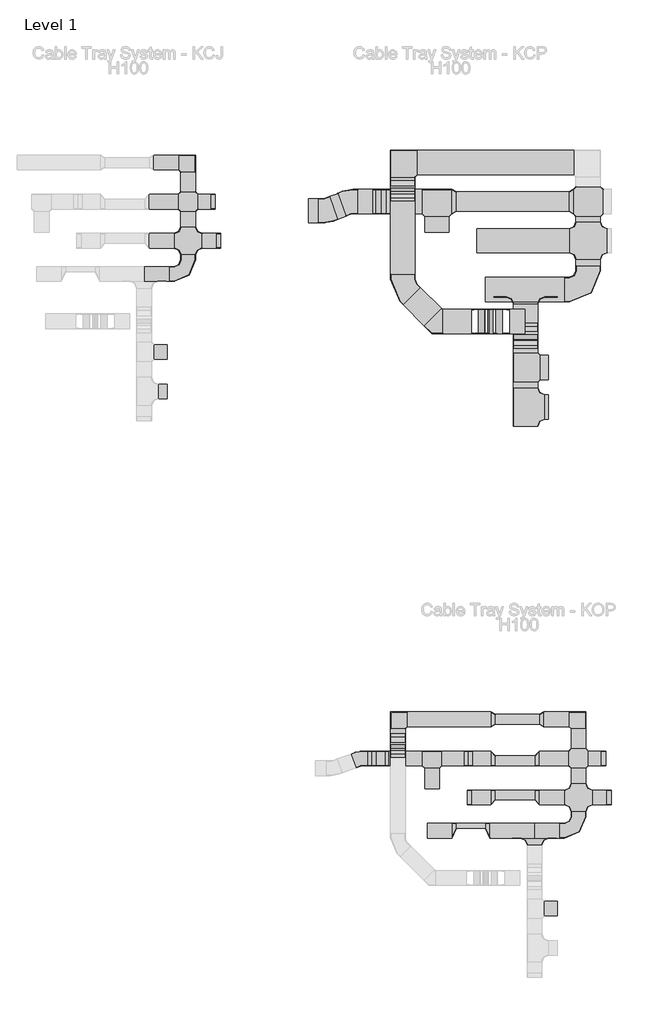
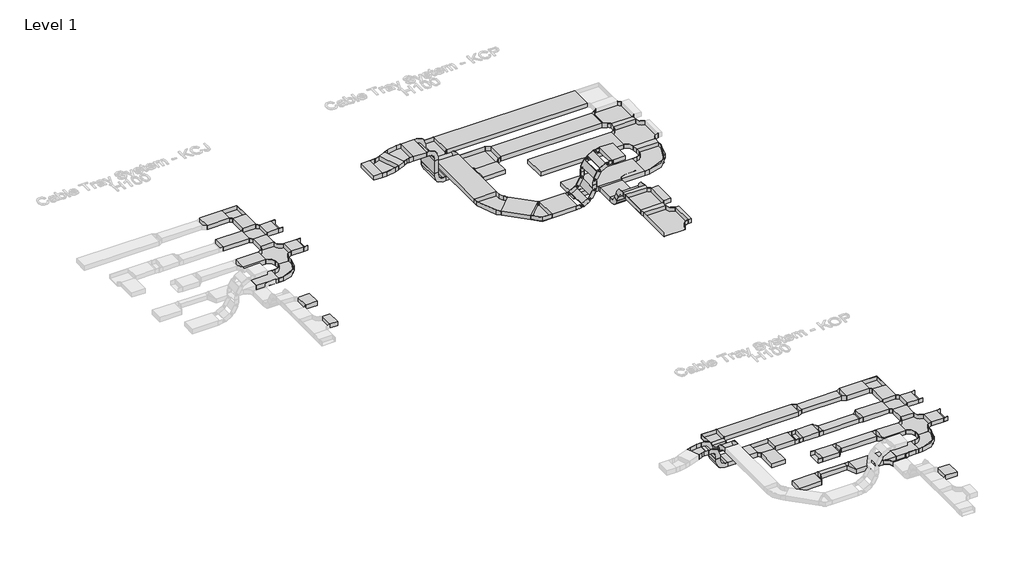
# One storey, part 19 of 106: 63 cable carrier fittings, 56 cable carrier segments.
"""IFC4 building model written with IfcOpenShell, lengths in millimetres."""

from ifc_helpers import new_model, si_unit, frame, origin, place, context, project, spatial, polyline, outline, extrude, transform, mapped, element, save
from components import cable_carrier_fitting_d4f283aa, cable_carrier_fitting_42195290, cable_carrier_fitting_5f227b89, cable_carrier_fitting_7ef83dec, cable_carrier_fitting_24d58ad9, cable_carrier_fitting_3a6d649d, cable_carrier_fitting_2d5aa353, cable_carrier_fitting_83230dc4, cable_carrier_fitting_3cbe9e62, cable_carrier_fitting_c86838e9, cable_carrier_fitting_1be5f7b4, cable_carrier_fitting_c163f1ca, cable_carrier_fitting_32826c86, cable_carrier_fitting_b014db50, cable_carrier_fitting_e69bf5bc, cable_carrier_fitting_b7b75895, cable_carrier_fitting_0afdfe74, cable_carrier_fitting_8809d5a3, cable_carrier_fitting_4562ccd4, cable_carrier_fitting_385655bb, cable_carrier_fitting_dcc5a5fb, cable_carrier_fitting_57a60f3e, cable_carrier_fitting_a6edbbf3, cable_carrier_fitting_a0d47c04, cable_carrier_fitting_38514b7d, cable_carrier_fitting_a285f0eb, cable_carrier_fitting_ec34a846, cable_carrier_fitting_2246cbb3, cable_carrier_fitting_a7a9146a, cable_carrier_fitting_ade76aff, cable_carrier_fitting_81c76d70, cable_carrier_fitting_ebb341f6, cable_carrier_fitting_3ce5f4b2, cable_carrier_fitting_6f560506, cable_carrier_fitting_32456c58, cable_carrier_fitting_ffd069c1, cable_carrier_fitting_3d71c57e, cable_carrier_fitting_2a96a9fd, cable_carrier_fitting_31e9e336, cable_carrier_fitting_8722d5a2, cable_carrier_fitting_a7df6f7b, cable_carrier_fitting_eff098e2

model = new_model("IFC4")

# Units and contexts
model_context = context("Model", 3, world=origin())
ifc_project = project(units=[si_unit("LENGTHUNIT", "METRE", prefix="MILLI")], contexts=[model_context])

# Site, building, storey
site = spatial("IfcSite", under=ifc_project)
building = spatial("IfcBuilding", under=site)
storey = spatial("IfcBuildingStorey", under=building, Name="Level 1", Elevation=0.0)

# Cable carrier fittings
placement = place(None, origin())
cable_carrier_fitting_shape = cable_carrier_fitting_d4f283aa(model_context)
element("IfcCableCarrierFitting", 1, ObjectType="BAKS_Reducer : RK(S/L/P)J_H100", at=placement, inside=storey, context=model_context, shape_type="MappedRepresentation", body=[
    mapped(cable_carrier_fitting_shape, transform((161211.8329462, 22980.8714214, 0.0), x_axis=(-1.0, 0.0, 0.0), y_axis=(0.0, -1.0, 0.0), z_axis=(0.0, 0.0, 1.0))),
])
element("IfcCableCarrierFitting", 2, ObjectType="BAKS_Reducer : RK(S/L/P)J_H100", at=placement, inside=storey, context=model_context, shape_type="MappedRepresentation", body=[
    mapped(cable_carrier_fitting_shape, transform((161325.8329462, 22180.8714214, 0.0), x_axis=(-1.0, 0.0, 0.0), y_axis=(0.0, -1.0, 0.0), z_axis=(0.0, 0.0, 1.0))),
])
cable_carrier_fitting_2_shape = cable_carrier_fitting_42195290(model_context)
element("IfcCableCarrierFitting", 3, ObjectType="BAKS_Horizontal bend : KKJ/KKMJ_H100", at=placement, inside=storey, context=model_context, shape_type="MappedRepresentation", body=[
    mapped(cable_carrier_fitting_2_shape, transform((160656.8329462, 23780.8714214, 0.0), x_axis=(0.0, 1.0, 0.0), y_axis=(-1.0, 0.0, 0.0), z_axis=(0.0, 0.0, 1.0))),
])
cable_carrier_fitting_3_shape = cable_carrier_fitting_5f227b89(model_context)
element("IfcCableCarrierFitting", 4, ObjectType="BAKS_Horizontal cross over : CZKJ_H100", at=placement, inside=storey, context=model_context, shape_type="MappedRepresentation", body=[
    mapped(cable_carrier_fitting_3_shape, transform((160656.8329462, 22980.8714214, 0.0), x_axis=(0.0, -1.0, 0.0), y_axis=(1.0, 0.0, 0.0), z_axis=(0.0, 0.0, 1.0))),
])
cable_carrier_fitting_4_shape = cable_carrier_fitting_7ef83dec(model_context)
element("IfcCableCarrierFitting", 5, ObjectType="BAKS_Horizontal cross over radius : CZKPJ_H100", at=placement, inside=storey, context=model_context, shape_type="MappedRepresentation", body=[
    mapped(cable_carrier_fitting_4_shape, transform((160656.8329462, 22180.8714214, 0.0), x_axis=(0.0, -1.0, 0.0), y_axis=(1.0, 0.0, 0.0), z_axis=(0.0, 0.0, 1.0))),
])
cable_carrier_fitting_5_shape = cable_carrier_fitting_24d58ad9(model_context)
element("IfcCableCarrierFitting", 6, ObjectType="BAKS_Horizontal bend radius : KKPJ/KKMPJ_H100", at=placement, inside=storey, context=model_context, shape_type="MappedRepresentation", body=[
    mapped(cable_carrier_fitting_5_shape, transform((160656.8329462, 21499.8714214, 0.0), x_axis=(1.0, 0.0, 0.0), y_axis=(0.0, 1.0, 0.0), z_axis=(0.0, 0.0, 1.0))),
])
element("IfcCableCarrierFitting", 7, ObjectType="BAKS_Horizontal bend radius : KKPJ/KKMPJ_H100", at=placement, inside=storey, context=model_context, shape_type="MappedRepresentation", body=[
    mapped(cable_carrier_fitting_5_shape, transform((168656.8329462, 10099.8714214, 0.0), x_axis=(1.0, 0.0, 0.0), y_axis=(0.0, 1.0, 0.0), z_axis=(0.0, 0.0, 1.0))),
])
cable_carrier_fitting_6_shape = cable_carrier_fitting_3a6d649d(model_context)
element("IfcCableCarrierFitting", 8, ObjectType="BAKS_Horizontal bend radius : KKPJ/KKMPJ_H100", at=placement, inside=storey, context=model_context, shape_type="MappedRepresentation", body=[
    mapped(cable_carrier_fitting_6_shape, transform((164186.1981218, 11580.8714214, 438.0), x_axis=(-1.0, 0.0, 0.0), y_axis=(0.0, -1.0, 0.0), z_axis=(0.0, 0.0, 1.0))),
])
cable_carrier_fitting_7_shape = cable_carrier_fitting_2d5aa353(model_context)
element("IfcCableCarrierFitting", 9, ObjectType="BAKS_BEND_Articulated connector_LGP : LGP_H100", at=placement, inside=storey, context=model_context, shape_type="MappedRepresentation", body=[
    mapped(cable_carrier_fitting_7_shape, transform((166557.3065873, 20281.3714214, 235.0), x_axis=(1.0, 0.0, 0.0), y_axis=(0.0, 0.0, 1.0), z_axis=(0.0, -1.0, 0.0))),
])
element("IfcCableCarrierFitting", 10, ObjectType="BAKS_BEND_Articulated connector_LGP : LGP_H100", at=placement, inside=storey, context=model_context, shape_type="MappedRepresentation", body=[
    mapped(cable_carrier_fitting_7_shape, transform((166853.7340999, 20781.3714214, 760.9736411), x_axis=(0.0, 0.0, 1.0), y_axis=(1.0, 0.0, 0.0), z_axis=(0.0, 1.0, 0.0))),
])
cable_carrier_fitting_8_shape = cable_carrier_fitting_83230dc4(model_context)
element("IfcCableCarrierFitting", 11, ObjectType="BAKS_BEND_Articulated connector_LGP : LGP_H100", at=placement, inside=storey, context=model_context, shape_type="MappedRepresentation", body=[
    mapped(cable_carrier_fitting_8_shape, transform((166853.7340999, 20281.3714214, 531.4275126), x_axis=(0.4999999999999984, 0.0, 0.8660254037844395), y_axis=(-0.8660254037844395, 0.0, 0.4999999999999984), z_axis=(0.0, -1.0, 0.0))),
])
element("IfcCableCarrierFitting", 12, ObjectType="BAKS_BEND_Articulated connector_LGP : LGP_H100", at=placement, inside=storey, context=model_context, shape_type="MappedRepresentation", body=[
    mapped(cable_carrier_fitting_8_shape, transform((167150.1616126, 20781.3714214, 1057.4011537), x_axis=(0.8660254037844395, 0.0, 0.4999999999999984), y_axis=(0.4999999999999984, 0.0, -0.8660254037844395), z_axis=(0.0, 1.0, 0.0))),
])
cable_carrier_fitting_9_shape = cable_carrier_fitting_3cbe9e62(model_context)
element("IfcCableCarrierFitting", 13, ObjectType="BAKS_BEND_Articulated connector_LGP : LGP_H100", at=placement, inside=storey, context=model_context, shape_type="MappedRepresentation", body=[
    mapped(cable_carrier_fitting_9_shape, transform((166853.7340999, 20781.3714214, 531.4275126), x_axis=(0.4999999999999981, 0.0, 0.8660254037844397), y_axis=(0.8660254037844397, 0.0, -0.4999999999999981), z_axis=(0.0, 1.0, 0.0))),
])
element("IfcCableCarrierFitting", 14, ObjectType="BAKS_BEND_Articulated connector_LGP : LGP_H100", at=placement, inside=storey, context=model_context, shape_type="MappedRepresentation", body=[
    mapped(cable_carrier_fitting_9_shape, transform((167150.1616126, 20281.3714214, 1057.4011537), x_axis=(0.8660254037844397, 0.0, 0.4999999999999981), y_axis=(-0.4999999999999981, 0.0, 0.8660254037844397), z_axis=(0.0, -1.0, 0.0))),
])
cable_carrier_fitting_10_shape = cable_carrier_fitting_c86838e9(model_context)
element("IfcCableCarrierFitting", 15, ObjectType="BAKS_BEND_Articulated connector_LGP : LGP_H100", at=placement, inside=storey, context=model_context, shape_type="MappedRepresentation", body=[
    mapped(cable_carrier_fitting_10_shape, transform((166557.3065873, 20781.3714214, 235.0), x_axis=(1.0, 0.0, 0.0), y_axis=(0.0, 0.0, -1.0), z_axis=(0.0, 1.0, 0.0))),
])
element("IfcCableCarrierFitting", 16, ObjectType="BAKS_BEND_Articulated connector_LGP : LGP_H100", at=placement, inside=storey, context=model_context, shape_type="MappedRepresentation", body=[
    mapped(cable_carrier_fitting_10_shape, transform((166853.7340999, 20281.3714214, 760.9736411), x_axis=(0.0, 0.0, 1.0), y_axis=(-1.0, 0.0, 0.0), z_axis=(0.0, -1.0, 0.0))),
])
cable_carrier_fitting_11_shape = cable_carrier_fitting_1be5f7b4(model_context)
element("IfcCableCarrierFitting", 17, ObjectType="BAKS_Reducer : RK(S/L/P)P_H100", at=placement, inside=storey, context=model_context, shape_type="MappedRepresentation", body=[
    mapped(cable_carrier_fitting_11_shape, transform((167856.8329462, 12380.8714214, 0.0), x_axis=(1.0, 0.0, 0.0), y_axis=(0.0, 1.0, 0.0), z_axis=(0.0, 0.0, 1.0))),
])
cable_carrier_fitting_12_shape = cable_carrier_fitting_c163f1ca(model_context)
element("IfcCableCarrierFitting", 18, ObjectType="BAKS_Reducer : RK(S/L/P)P_H100", at=placement, inside=storey, context=model_context, shape_type="MappedRepresentation", body=[
    mapped(cable_carrier_fitting_12_shape, transform((167761.8329462, 11530.8714214, 0.0), x_axis=(1.0, 0.0, 0.0), y_axis=(0.0, 1.0, 0.0), z_axis=(0.0, 0.0, 1.0))),
])
element("IfcCableCarrierFitting", 19, ObjectType="BAKS_Reducer : RK(S/L/P)P_H100", at=placement, inside=storey, context=model_context, shape_type="MappedRepresentation", body=[
    mapped(cable_carrier_fitting_12_shape, transform((166951.8329462, 10830.8714214, 0.0), x_axis=(-1.0, 0.0, 0.0), y_axis=(0.0, -1.0, 0.0), z_axis=(0.0, 0.0, 1.0))),
])
cable_carrier_fitting_13_shape = cable_carrier_fitting_32826c86(model_context)
element("IfcCableCarrierFitting", 20, ObjectType="BAKS_Reducer : RK(S/L/P)P_H100", at=placement, inside=storey, context=model_context, shape_type="MappedRepresentation", body=[
    mapped(cable_carrier_fitting_13_shape, transform((166951.8329462, 11530.8714214, 0.0), x_axis=(-1.0, 0.0, 0.0), y_axis=(0.0, -1.0, 0.0), z_axis=(0.0, 0.0, 1.0))),
])
element("IfcCableCarrierFitting", 21, ObjectType="BAKS_Reducer : RK(S/L/P)P_H100", at=placement, inside=storey, context=model_context, shape_type="MappedRepresentation", body=[
    mapped(cable_carrier_fitting_13_shape, transform((167761.8329462, 10830.8714214, 0.0), x_axis=(1.0, 0.0, 0.0), y_axis=(0.0, 1.0, 0.0), z_axis=(0.0, 0.0, 1.0))),
])
element("IfcCableCarrierFitting", 22, ObjectType="BAKS_Reducer : RK(S/L/P)P_H100", at=placement, inside=storey, context=model_context, shape_type="MappedRepresentation", body=[
    mapped(cable_carrier_fitting_shape, transform((166399.3329462, 11580.8714214, 0.0), x_axis=(1.0, 0.0, 0.0), y_axis=(0.0, 1.0, 0.0), z_axis=(0.0, 0.0, 1.0))),
])
element("IfcCableCarrierFitting", 23, ObjectType="BAKS_Reducer : RK(S/L/P)P_H100", at=placement, inside=storey, context=model_context, shape_type="MappedRepresentation", body=[
    mapped(cable_carrier_fitting_shape, transform((166399.3329462, 11580.8714214, 0.0), x_axis=(-1.0, 0.0, 0.0), y_axis=(0.0, -1.0, 0.0), z_axis=(0.0, 0.0, 1.0))),
])
element("IfcCableCarrierFitting", 24, ObjectType="BAKS_Reducer : RK(S/L/P)P_H100", at=placement, inside=storey, context=model_context, shape_type="MappedRepresentation", body=[
    mapped(cable_carrier_fitting_shape, transform((166377.8329462, 10780.8714214, 0.0), x_axis=(1.0, 0.0, 0.0), y_axis=(0.0, 1.0, 0.0), z_axis=(0.0, 0.0, 1.0))),
])
element("IfcCableCarrierFitting", 25, ObjectType="BAKS_Reducer : RK(S/L/P)P_H100", at=placement, inside=storey, context=model_context, shape_type="MappedRepresentation", body=[
    mapped(cable_carrier_fitting_shape, transform((169211.8329462, 11580.8714214, 0.0), x_axis=(-1.0, 0.0, 0.0), y_axis=(0.0, -1.0, 0.0), z_axis=(0.0, 0.0, 1.0))),
])
element("IfcCableCarrierFitting", 26, ObjectType="BAKS_Reducer : RK(S/L/P)P_H100", at=placement, inside=storey, context=model_context, shape_type="MappedRepresentation", body=[
    mapped(cable_carrier_fitting_shape, transform((169325.8329462, 10780.8714214, 0.0), x_axis=(-1.0, 0.0, 0.0), y_axis=(0.0, -1.0, 0.0), z_axis=(0.0, 0.0, 1.0))),
])
cable_carrier_fitting_14_shape = cable_carrier_fitting_b014db50(model_context)
element("IfcCableCarrierFitting", 27, ObjectType="BAKS_Reducer : RK(S/L/P)P_H100", at=placement, inside=storey, context=model_context, shape_type="MappedRepresentation", body=[
    mapped(cable_carrier_fitting_14_shape, transform((166856.8329462, 12380.8714214, 0.0), x_axis=(1.0, 0.0, 0.0), y_axis=(0.0, 1.0, 0.0), z_axis=(0.0, 0.0, 1.0))),
])
cable_carrier_fitting_15_shape = cable_carrier_fitting_e69bf5bc(model_context)
element("IfcCableCarrierFitting", 28, ObjectType="BAKS_Reducer : RK(S/L/P)P_H100", at=placement, inside=storey, context=model_context, shape_type="MappedRepresentation", body=[
    mapped(cable_carrier_fitting_15_shape, transform((166750.8329462, 10199.8714214, 0.0), x_axis=(1.0, 0.0, 0.0), y_axis=(0.0, 1.0, 0.0), z_axis=(0.0, 0.0, 1.0))),
])
cable_carrier_fitting_16_shape = cable_carrier_fitting_b7b75895(model_context)
element("IfcCableCarrierFitting", 29, ObjectType="BAKS_Reducer : RK(S/L/P)P_H100", at=placement, inside=storey, context=model_context, shape_type="MappedRepresentation", body=[
    mapped(cable_carrier_fitting_16_shape, transform((166152.8329462, 10199.8714214, 0.0), x_axis=(-1.0, 0.0, 0.0), y_axis=(0.0, -1.0, 0.0), z_axis=(0.0, 0.0, 1.0))),
])
cable_carrier_fitting_17_shape = cable_carrier_fitting_0afdfe74(model_context)
element("IfcCableCarrierFitting", 30, ObjectType="BAKS_Horizontal tee : TKP_H100", at=placement, inside=storey, context=model_context, shape_type="MappedRepresentation", body=[
    mapped(cable_carrier_fitting_17_shape, transform((165656.3329462, 11580.8714214, 0.0), x_axis=(1.0, 0.0, 0.0), y_axis=(0.0, 1.0, 0.0), z_axis=(0.0, 0.0, 1.0))),
])
element("IfcCableCarrierFitting", 31, ObjectType="BAKS_Horizontal bend : KKP/KKMP_H100", at=placement, inside=storey, context=model_context, shape_type="MappedRepresentation", body=[
    mapped(cable_carrier_fitting_2_shape, transform((168656.8329462, 12380.8714214, 0.0), x_axis=(0.0, 1.0, 0.0), y_axis=(-1.0, 0.0, 0.0), z_axis=(0.0, 0.0, 1.0))),
])
element("IfcCableCarrierFitting", 32, ObjectType="BAKS_Horizontal bend : KKP/KKMP_H100", at=placement, inside=storey, context=model_context, shape_type="MappedRepresentation", body=[
    mapped(cable_carrier_fitting_2_shape, transform((164956.8329462, 12380.8714214, 0.0), x_axis=(-1.0, 0.0, 0.0), y_axis=(0.0, -1.0, 0.0), z_axis=(0.0, 0.0, 1.0))),
])
cable_carrier_fitting_18_shape = cable_carrier_fitting_8809d5a3(model_context)
element("IfcCableCarrierFitting", 33, ObjectType="BAKS_Horizontal tee : TKJ_H100", at=placement, inside=storey, context=model_context, shape_type="MappedRepresentation", body=[
    mapped(cable_carrier_fitting_18_shape, transform((165756.3329462, 22980.8714214, 0.0), x_axis=(1.0, 0.0, 0.0), y_axis=(0.0, 1.0, 0.0), z_axis=(0.0, 0.0, 1.0))),
])
element("IfcCableCarrierFitting", 34, ObjectType="BAKS_Horizontal tee : TKJ_H100", at=placement, inside=storey, context=model_context, shape_type="MappedRepresentation", body=[
    mapped(cable_carrier_fitting_18_shape, transform((167573.8329462, 19583.8631068, 432.5277378), x_axis=(0.0, 1.0, 0.0), y_axis=(-1.0, 0.0, 0.0), z_axis=(0.0, 0.0, 1.0))),
])
cable_carrier_fitting_19_shape = cable_carrier_fitting_4562ccd4(model_context)
element("IfcCableCarrierFitting", 35, ObjectType="BAKS_Horizontal addon tee : TKDJ_H100", at=placement, inside=storey, context=model_context, shape_type="MappedRepresentation", body=[
    mapped(cable_carrier_fitting_19_shape, transform((167573.8329462, 21179.8714214, 0.0), x_axis=(1.0, 0.0, 0.0), y_axis=(0.0, 1.0, 0.0), z_axis=(0.0, 0.0, 1.0))),
])
cable_carrier_fitting_20_shape = cable_carrier_fitting_385655bb(model_context)
element("IfcCableCarrierFitting", 36, ObjectType="BAKS_Horizontal tee radius : TKPJ_H100", at=placement, inside=storey, context=model_context, shape_type="MappedRepresentation", body=[
    mapped(cable_carrier_fitting_20_shape, transform((167573.8329462, 18776.5802898, 432.5277378), x_axis=(0.0, 1.0, 0.0), y_axis=(-1.0, 0.0, 0.0), z_axis=(0.0, 0.0, 1.0))),
])
cable_carrier_fitting_21_shape = cable_carrier_fitting_dcc5a5fb(model_context)
element("IfcCableCarrierFitting", 37, ObjectType="BAKS_Horizontal bend : KKP/KKMP_H100", at=placement, inside=storey, context=model_context, shape_type="MappedRepresentation", body=[
    mapped(cable_carrier_fitting_21_shape, transform((165056.8329462, 23780.8714214, 0.0), x_axis=(-1.0, 0.0, 0.0), y_axis=(0.0, -1.0, 0.0), z_axis=(0.0, 0.0, 1.0))),
])
cable_carrier_fitting_22_shape = cable_carrier_fitting_57a60f3e(model_context)
element("IfcCableCarrierFitting", 38, ObjectType="BAKS_Horizontal bend : KKP/KKMP_H100", at=placement, inside=storey, context=model_context, shape_type="MappedRepresentation", body=[
    mapped(cable_carrier_fitting_22_shape, transform((165756.3329462, 20531.3714214, 235.0), x_axis=(0.707106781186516, -0.707106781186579, 0.0), y_axis=(0.707106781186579, 0.707106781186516, 0.0), z_axis=(0.0, 0.0, 1.0))),
])
cable_carrier_fitting_23_shape = cable_carrier_fitting_a6edbbf3(model_context)
element("IfcCableCarrierFitting", 39, ObjectType="BAKS_Horizontal cross over : CZKP_H100", at=placement, inside=storey, context=model_context, shape_type="MappedRepresentation", body=[
    mapped(cable_carrier_fitting_23_shape, transform((168856.8329462, 22980.8714214, 0.0), x_axis=(0.0, -1.0, 0.0), y_axis=(1.0, 0.0, 0.0), z_axis=(0.0, 0.0, 1.0))),
])
cable_carrier_fitting_24_shape = cable_carrier_fitting_a0d47c04(model_context)
element("IfcCableCarrierFitting", 40, ObjectType="BAKS_Horizontal cross over radius : CZKPP_H100", at=placement, inside=storey, context=model_context, shape_type="MappedRepresentation", body=[
    mapped(cable_carrier_fitting_24_shape, transform((168856.8329462, 22180.8714214, 0.0), x_axis=(0.0, -1.0, 0.0), y_axis=(1.0, 0.0, 0.0), z_axis=(0.0, 0.0, 1.0))),
])
cable_carrier_fitting_25_shape = cable_carrier_fitting_38514b7d(model_context)
element("IfcCableCarrierFitting", 41, ObjectType="BAKS_Reducer : RK(S/L/P)J_H100", at=placement, inside=storey, context=model_context, shape_type="MappedRepresentation", body=[
    mapped(cable_carrier_fitting_25_shape, transform((168551.8329462, 22980.8714214, 0.0), x_axis=(-1.0, 0.0, 0.0), y_axis=(0.0, -1.0, 0.0), z_axis=(0.0, 0.0, 1.0))),
])
cable_carrier_fitting_26_shape = cable_carrier_fitting_a285f0eb(model_context)
element("IfcCableCarrierFitting", 42, ObjectType="BAKS_Reducer : RK(S/L/P)J_H100", at=placement, inside=storey, context=model_context, shape_type="MappedRepresentation", body=[
    mapped(cable_carrier_fitting_26_shape, transform((166156.3329462, 22980.8714214, 0.0), x_axis=(-1.0, 0.0, 0.0), y_axis=(0.0, -1.0, 0.0), z_axis=(0.0, 0.0, 1.0))),
])
cable_carrier_fitting_27_shape = cable_carrier_fitting_ec34a846(model_context)
element("IfcCableCarrierFitting", 43, ObjectType="BAKS_Horizontal bend radius : KKPP/KKMPP_H100", at=placement, inside=storey, context=model_context, shape_type="MappedRepresentation", body=[
    mapped(cable_carrier_fitting_27_shape, transform((163966.1981218, 22980.8714214, 738.0), x_axis=(-1.0, 0.0, 0.0), y_axis=(0.0, -1.0, 0.0), z_axis=(0.0, 0.0, 1.0))),
])
element("IfcCableCarrierFitting", 44, ObjectType="BAKS_Horizontal bend radius : KKPP/KKMPP_H100", at=placement, inside=storey, context=model_context, shape_type="MappedRepresentation", body=[
    mapped(cable_carrier_fitting_27_shape, transform((163487.0862935, 22795.0646081, 738.0), x_axis=(1.0, 0.0, 0.0), y_axis=(0.0, 1.0, 0.0), z_axis=(0.0, 0.0, 1.0))),
])
cable_carrier_fitting_28_shape = cable_carrier_fitting_2246cbb3(model_context)
element("IfcCableCarrierFitting", 45, ObjectType="BAKS_BEND_Adjustable vertical bend element_EL : ELP_H100", at=placement, inside=storey, context=model_context, shape_type="MappedRepresentation", body=[
    mapped(cable_carrier_fitting_28_shape, transform((166733.2340999, 20531.3714214, 322.7153903), x_axis=(0.4999999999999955, 0.0, 0.8660254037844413), y_axis=(0.0, 1.0, 0.0), z_axis=(-0.8660254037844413, 0.0, 0.4999999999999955))),
])
element("IfcCableCarrierFitting", 46, ObjectType="BAKS_BEND_Adjustable vertical bend element_EL : ELP_H100", at=placement, inside=storey, context=model_context, shape_type="MappedRepresentation", body=[
    mapped(cable_carrier_fitting_28_shape, transform((166536.5219776, 20531.3714214, 223.0), x_axis=(0.8660254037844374, 0.0, 0.5000000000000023), y_axis=(0.0, 1.0, 0.0), z_axis=(-0.5000000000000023, 0.0, 0.8660254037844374))),
])
element("IfcCableCarrierFitting", 47, ObjectType="BAKS_BEND_Adjustable vertical bend element_EL : ELP_H100", at=placement, inside=storey, context=model_context, shape_type="MappedRepresentation", body=[
    mapped(cable_carrier_fitting_28_shape, transform((166941.4494902, 20531.3714214, 936.9011537), x_axis=(0.8660254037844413, 0.0, 0.4999999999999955), y_axis=(0.0, -1.0, 0.0), z_axis=(0.4999999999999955, 0.0, -0.8660254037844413))),
])
element("IfcCableCarrierFitting", 48, ObjectType="BAKS_BEND_Adjustable vertical bend element_EL : ELP_H100", at=placement, inside=storey, context=model_context, shape_type="MappedRepresentation", body=[
    mapped(cable_carrier_fitting_28_shape, transform((166841.7340999, 20531.3714214, 740.1890314), x_axis=(0.5000000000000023, 0.0, 0.8660254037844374), y_axis=(0.0, -1.0, 0.0), z_axis=(0.8660254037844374, 0.0, -0.5000000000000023))),
])
cable_carrier_fitting_29_shape = cable_carrier_fitting_a7a9146a(model_context)
element("IfcCableCarrierFitting", 49, ObjectType="BAKS_Horizontal bend radius : KKPP/KKMPP_H100", at=placement, inside=storey, context=model_context, shape_type="MappedRepresentation", body=[
    mapped(cable_carrier_fitting_29_shape, transform((165056.8329462, 21230.8714214, 235.0), x_axis=(0.0, -1.0, 0.0), y_axis=(1.0, 0.0, 0.0), z_axis=(0.0, 0.0, 1.0))),
])
cable_carrier_fitting_30_shape = cable_carrier_fitting_ade76aff(model_context)
element("IfcCableCarrierFitting", 50, ObjectType="BAKS_Horizontal bend radius : KKPP/KKMPP_H100", at=placement, inside=storey, context=model_context, shape_type="MappedRepresentation", body=[
    mapped(cable_carrier_fitting_30_shape, transform((168856.8329462, 21179.8714214, 0.0), x_axis=(1.0, 0.0, 0.0), y_axis=(0.0, 1.0, 0.0), z_axis=(0.0, 0.0, 1.0))),
])
cable_carrier_fitting_31_shape = cable_carrier_fitting_81c76d70(model_context)
element("IfcCableCarrierFitting", 51, ObjectType="BAKS_Horizontal addon tee : TKDP_H100", at=placement, inside=storey, context=model_context, shape_type="MappedRepresentation", body=[
    mapped(cable_carrier_fitting_31_shape, transform((167753.8329462, 10099.8714214, 0.0), x_axis=(1.0, 0.0, 0.0), y_axis=(0.0, 1.0, 0.0), z_axis=(0.0, 0.0, 1.0))),
])
cable_carrier_fitting_32_shape = cable_carrier_fitting_ebb341f6(model_context)
element("IfcCableCarrierFitting", 52, ObjectType="BAKS_Horizontal cross over radius : CZKPP_H100", at=placement, inside=storey, context=model_context, shape_type="MappedRepresentation", body=[
    mapped(cable_carrier_fitting_32_shape, transform((168656.8329462, 10780.8714214, 0.0), x_axis=(0.0, -1.0, 0.0), y_axis=(1.0, 0.0, 0.0), z_axis=(0.0, 0.0, 1.0))),
])
element("IfcCableCarrierFitting", 53, ObjectType="BAKS_Horizontal cross over : CZKP_H100", at=placement, inside=storey, context=model_context, shape_type="MappedRepresentation", body=[
    mapped(cable_carrier_fitting_3_shape, transform((168656.8329462, 11580.8714214, 0.0), x_axis=(0.0, -1.0, 0.0), y_axis=(1.0, 0.0, 0.0), z_axis=(0.0, 0.0, 1.0))),
])
cable_carrier_fitting_33_shape = cable_carrier_fitting_3ce5f4b2(model_context)
element("IfcCableCarrierFitting", 54, ObjectType="BAKS_KK_Vertical bend EXTERNAL_LU : LUMNP_H100", at=placement, inside=storey, context=model_context, shape_type="MappedRepresentation", body=[
    mapped(cable_carrier_fitting_33_shape, transform((165056.8329462, 23360.8714214, 0.0), x_axis=(0.0, -1.0, 0.0), y_axis=(0.0, 0.0, 1.0), z_axis=(-1.0, 0.0, 0.0))),
])
cable_carrier_fitting_34_shape = cable_carrier_fitting_6f560506(model_context)
element("IfcCableCarrierFitting", 55, ObjectType="BAKS_KK_Vertical bend EXTERNAL_LU : LUMNP_H100", at=placement, inside=storey, context=model_context, shape_type="MappedRepresentation", body=[
    mapped(cable_carrier_fitting_34_shape, transform((164956.8329462, 11960.8714214, 0.0), x_axis=(0.0, -1.0, 0.0), y_axis=(0.0, 0.0, 1.0), z_axis=(-1.0, 0.0, 0.0))),
])
cable_carrier_fitting_35_shape = cable_carrier_fitting_32456c58(model_context)
element("IfcCableCarrierFitting", 56, ObjectType="BAKS_KK_Vertical bend INTERNAL_LU : LUMNP_H100", at=placement, inside=storey, context=model_context, shape_type="MappedRepresentation", body=[
    mapped(cable_carrier_fitting_35_shape, transform((165056.8329462, 23125.8714214, 235.0), x_axis=(0.0, 1.0, 0.0), y_axis=(0.0, 0.0, -1.0), z_axis=(-1.0, 0.0, 0.0))),
])
cable_carrier_fitting_36_shape = cable_carrier_fitting_ffd069c1(model_context)
element("IfcCableCarrierFitting", 57, ObjectType="BAKS_KK_Vertical bend INTERNAL_LU : LUMNP_H100", at=placement, inside=storey, context=model_context, shape_type="MappedRepresentation", body=[
    mapped(cable_carrier_fitting_36_shape, transform((164956.8329462, 11725.8714214, 235.0), x_axis=(0.0, 1.0, 0.0), y_axis=(0.0, 0.0, -1.0), z_axis=(-1.0, 0.0, 0.0))),
])
cable_carrier_fitting_37_shape = cable_carrier_fitting_3d71c57e(model_context)
element("IfcCableCarrierFitting", 58, ObjectType="BAKS_KK_Vertical bend INTERNAL_LU : LUMNP_H100", at=placement, inside=storey, context=model_context, shape_type="MappedRepresentation", body=[
    mapped(cable_carrier_fitting_37_shape, transform((167573.8329462, 20137.0146558, 432.5277378), x_axis=(0.0, -0.42261826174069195, 0.9063077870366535), y_axis=(0.0, -0.9063077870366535, -0.42261826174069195), z_axis=(1.0, 0.0, 0.0))),
])
cable_carrier_fitting_38_shape = cable_carrier_fitting_2a96a9fd(model_context)
element("IfcCableCarrierFitting", 59, ObjectType="BAKS_KK_Vertical bend EXTERNAL_LU : LUNJ_H100", at=placement, inside=storey, context=model_context, shape_type="MappedRepresentation", body=[
    mapped(cable_carrier_fitting_38_shape, transform((164656.3329462, 22980.8714214, 0.0), x_axis=(-1.0, 0.0, 0.0), y_axis=(0.0, 0.0, 1.0), z_axis=(0.0, 1.0, 0.0))),
])
cable_carrier_fitting_39_shape = cable_carrier_fitting_31e9e336(model_context)
element("IfcCableCarrierFitting", 60, ObjectType="BAKS_KK_Vertical bend EXTERNAL_LU : LUNJ_H100", at=placement, inside=storey, context=model_context, shape_type="MappedRepresentation", body=[
    mapped(cable_carrier_fitting_39_shape, transform((167573.8329462, 20338.7056523, 0.0), x_axis=(0.0, -1.0, 0.0), y_axis=(0.0, 0.0, 1.0), z_axis=(-1.0, 0.0, 0.0))),
])
cable_carrier_fitting_40_shape = cable_carrier_fitting_8722d5a2(model_context)
element("IfcCableCarrierFitting", 61, ObjectType="BAKS_KK_Vertical bend INTERNAL_LU : LUNJ_H100", at=placement, inside=storey, context=model_context, shape_type="MappedRepresentation", body=[
    mapped(cable_carrier_fitting_40_shape, transform((164656.3329462, 22980.8714214, 738.0), x_axis=(0.0, 0.0, 1.0), y_axis=(-1.0, 0.0, 0.0), z_axis=(0.0, -1.0, 0.0))),
])
cable_carrier_fitting_41_shape = cable_carrier_fitting_a7df6f7b(model_context)
element("IfcCableCarrierFitting", 62, ObjectType="BAKS_KK_Vertical bend INTERNAL_LU : LUNP_H100", at=placement, inside=storey, context=model_context, shape_type="MappedRepresentation", body=[
    mapped(cable_carrier_fitting_41_shape, transform((164556.3329462, 11580.8714214, 438.0), x_axis=(0.0, 0.0, 1.0), y_axis=(-1.0, 0.0, 0.0), z_axis=(0.0, -1.0, 0.0))),
])
cable_carrier_fitting_42_shape = cable_carrier_fitting_eff098e2(model_context)
element("IfcCableCarrierFitting", 63, ObjectType="BAKS_KK_Vertical bend EXTERNAL_LU : LUNP_H100", at=placement, inside=storey, context=model_context, shape_type="MappedRepresentation", body=[
    mapped(cable_carrier_fitting_42_shape, transform((164556.3329462, 11580.8714214, 0.0), x_axis=(-1.0, 0.0, 0.0), y_axis=(0.0, 0.0, 1.0), z_axis=(0.0, 1.0, 0.0))),
])

# Cable carrier segments
element("IfcCableCarrierSegment", 64, ObjectType="BAKS - Cable tray H100 (KCJ)", at=placement, inside=storey, context=model_context, shape_type="SweptSolid", body=[
    extrude(outline(polyline([(159951.8329462, 23630.8714214), (159951.8329462, 23930.8714214), (160460.8329462, 23930.8714214), (160460.8329462, 23630.8714214), (159951.8329462, 23630.8714214)])), frame((0.0, 0.0, -50.0), z_axis=(0.0, 0.0, 1.0), x_axis=(1.0, 0.0, 0.0)), (0.0, 0.0, 1.0), 100.0),
])
element("IfcCableCarrierSegment", 65, ObjectType="BAKS - Cable tray H100 (KCJ)", at=placement, inside=storey, context=model_context, shape_type="SweptSolid", body=[
    extrude(outline(polyline([(160506.8329462, 23584.8714214), (160806.8329462, 23584.8714214), (160806.8329462, 23185.8714214), (160506.8329462, 23185.8714214), (160506.8329462, 23584.8714214)])), frame((0.0, 0.0, -50.0), z_axis=(0.0, 0.0, 1.0), x_axis=(1.0, 0.0, 0.0)), (0.0, 0.0, 1.0), 100.0),
])
element("IfcCableCarrierSegment", 66, ObjectType="BAKS - Cable tray H100 (KCJ)", at=placement, inside=storey, context=model_context, shape_type="SweptSolid", body=[
    extrude(outline(polyline([(160506.8329462, 22775.8714214), (160806.8329462, 22775.8714214), (160806.8329462, 22471.8714214), (160506.8329462, 22471.8714214), (160506.8329462, 22775.8714214)])), frame((0.0, 0.0, -50.0), z_axis=(0.0, 0.0, 1.0), x_axis=(1.0, 0.0, 0.0)), (0.0, 0.0, 1.0), 100.0),
])
element("IfcCableCarrierSegment", 67, ObjectType="BAKS - Cable tray H100 (KCJ)", at=placement, inside=storey, context=model_context, shape_type="SweptSolid", body=[
    extrude(outline(polyline([(160451.8329462, 23130.8714214), (160451.8329462, 22830.8714214), (159856.8329462, 22830.8714214), (159856.8329462, 23130.8714214), (160451.8329462, 23130.8714214)])), frame((0.0, 0.0, -50.0), z_axis=(0.0, 0.0, 1.0), x_axis=(1.0, 0.0, 0.0)), (0.0, 0.0, 1.0), 100.0),
])
element("IfcCableCarrierSegment", 68, ObjectType="BAKS - Cable tray H100 (KCJ)", at=placement, inside=storey, context=model_context, shape_type="SweptSolid", body=[
    extrude(outline(polyline([(160365.8329462, 22330.8714214), (160365.8329462, 22030.8714214), (159856.8329462, 22030.8714214), (159856.8329462, 22330.8714214), (160365.8329462, 22330.8714214)])), frame((0.0, 0.0, -50.0), z_axis=(0.0, 0.0, 1.0), x_axis=(1.0, 0.0, 0.0)), (0.0, 0.0, 1.0), 100.0),
])
element("IfcCableCarrierSegment", 69, ObjectType="BAKS - Cable tray H100 (KCJ)", at=placement, inside=storey, context=model_context, shape_type="SweptSolid", body=[
    extrude(outline(polyline([(160266.8329462, 21649.8714214), (160266.8329462, 21349.8714214), (159754.3750376, 21349.8714214), (159754.3750376, 21649.8714214), (160266.8329462, 21649.8714214)])), frame((0.0, 0.0, -50.0), z_axis=(0.0, 0.0, 1.0), x_axis=(1.0, 0.0, 0.0)), (0.0, 0.0, 1.0), 100.0),
])
element("IfcCableCarrierSegment", 70, ObjectType="BAKS - Cable tray H100 (KCJ)", at=placement, inside=storey, context=model_context, shape_type="SweptSolid", body=[
    extrude(outline(polyline([(160861.8329462, 22830.8714214), (160861.8329462, 23130.8714214), (161116.8329462, 23130.8714214), (161116.8329462, 22830.8714214), (160861.8329462, 22830.8714214)])), frame((0.0, 0.0, -50.0), z_axis=(0.0, 0.0, 1.0), x_axis=(1.0, 0.0, 0.0)), (0.0, 0.0, 1.0), 100.0),
])
element("IfcCableCarrierSegment", 71, ObjectType="BAKS - Cable tray H100 (KCJ)", at=placement, inside=storey, context=model_context, shape_type="SweptSolid", body=[
    extrude(outline(polyline([(160947.8329462, 22030.8714214), (160947.8329462, 22330.8714214), (161230.8329462, 22330.8714214), (161230.8329462, 22030.8714214), (160947.8329462, 22030.8714214)])), frame((0.0, 0.0, -50.0), z_axis=(0.0, 0.0, 1.0), x_axis=(1.0, 0.0, 0.0)), (0.0, 0.0, 1.0), 100.0),
])
element("IfcCableCarrierSegment", 72, ObjectType="BAKS - Cable tray H100 (KCJ)", at=placement, inside=storey, context=model_context, shape_type="SweptSolid", body=[
    extrude(outline(polyline([(159958.8329462, 19753.8631068), (159958.8329462, 20053.8631068), (160221.4800024, 20053.8631068), (160221.4800024, 19753.8631068), (159958.8329462, 19753.8631068)])), frame((0.0, 0.0, 382.5277378), z_axis=(0.0, 0.0, 1.0), x_axis=(1.0, 0.0, 0.0)), (0.0, 0.0, 1.0), 100.0),
])
element("IfcCableCarrierSegment", 73, ObjectType="BAKS - Cable tray H100 (KCJ)", at=placement, inside=storey, context=model_context, shape_type="SweptSolid", body=[
    extrude(outline(polyline([(160048.8329462, 18946.5802898), (160048.8329462, 19246.5802898), (160221.4800024, 19246.5802898), (160221.4800024, 18946.5802898), (160048.8329462, 18946.5802898)])), frame((0.0, 0.0, 382.5277378), z_axis=(0.0, 0.0, 1.0), x_axis=(1.0, 0.0, 0.0)), (0.0, 0.0, 1.0), 100.0),
])
element("IfcCableCarrierSegment", 74, ObjectType="BAKS - Cable tray H100 (KCP)", at=placement, inside=storey, context=model_context, shape_type="SweptSolid", body=[
    extrude(outline(polyline([(165352.8329462, 23530.8714214), (165352.8329462, 24030.8714214), (168560.8329462, 24030.8714214), (168560.8329462, 23530.8714214), (165352.8329462, 23530.8714214)])), frame((0.0, 0.0, -50.0), z_axis=(0.0, 0.0, 1.0), x_axis=(1.0, 0.0, 0.0)), (0.0, 0.0, 1.0), 100.0),
])
element("IfcCableCarrierSegment", 75, ObjectType="BAKS - Cable tray H100 (KCP)", at=placement, inside=storey, context=model_context, shape_type="SweptSolid", body=[
    extrude(outline(polyline([(168606.8329462, 22675.8714214), (169106.8329462, 22675.8714214), (169106.8329462, 22566.8714214), (168606.8329462, 22566.8714214), (168606.8329462, 22675.8714214)])), frame((0.0, 0.0, -50.0), z_axis=(0.0, 0.0, 1.0), x_axis=(1.0, 0.0, 0.0)), (0.0, 0.0, 1.0), 100.0),
])
element("IfcCableCarrierSegment", 76, ObjectType="BAKS - Cable tray H100 (KCP)", at=placement, inside=storey, context=model_context, shape_type="SweptSolid", body=[
    extrude(outline(polyline([(166572.8329462, 21930.8714214), (166572.8329462, 22430.8714214), (168465.8329462, 22430.8714214), (168465.8329462, 21930.8714214), (166572.8329462, 21930.8714214)])), frame((0.0, 0.0, -50.0), z_axis=(0.0, 0.0, 1.0), x_axis=(1.0, 0.0, 0.0)), (0.0, 0.0, 1.0), 100.0),
])
element("IfcCableCarrierSegment", 77, ObjectType="BAKS - Cable tray H100 (KCP)", at=placement, inside=storey, context=model_context, shape_type="SweptSolid", body=[
    extrude(outline(polyline([(164875.3329462, 22730.8714214), (164875.3329462, 23230.8714214), (165451.3329462, 23230.8714214), (165451.3329462, 22730.8714214), (164875.3329462, 22730.8714214)])), frame((0.0, 0.0, -50.0), z_axis=(0.0, 0.0, 1.0), x_axis=(1.0, 0.0, 0.0)), (0.0, 0.0, 1.0), 100.0),
])
element("IfcCableCarrierSegment", 78, ObjectType="BAKS - Cable tray H100 (KCP)", at=placement, inside=storey, context=model_context, shape_type="SweptSolid", body=[
    extrude(outline(polyline([(165506.3329462, 22675.8714214), (166006.3329462, 22675.8714214), (166006.3329462, 22355.8714214), (165506.3329462, 22355.8714214), (165506.3329462, 22675.8714214)])), frame((0.0, 0.0, -50.0), z_axis=(0.0, 0.0, 1.0), x_axis=(1.0, 0.0, 0.0)), (0.0, 0.0, 1.0), 100.0),
])
element("IfcCableCarrierSegment", 79, ObjectType="BAKS - Cable tray H100 (KCP)", at=placement, inside=storey, context=model_context, shape_type="SweptSolid", body=[
    extrude(outline(polyline([(165306.8329462, 21492.4147107), (164806.8329462, 21492.4147107), (164806.8329462, 22991.8104549), (165306.8329462, 22991.8104549), (165306.8329462, 21492.4147107)])), frame((0.0, 0.0, 185.0), z_axis=(0.0, 0.0, 1.0), x_axis=(1.0, 0.0, 0.0)), (0.0, 0.0, 1.0), 100.0),
])
element("IfcCableCarrierSegment", 80, ObjectType="BAKS - Cable tray H100 (KCP)", at=placement, inside=storey, context=model_context, shape_type="SweptSolid", body=[
    extrude(outline(polyline([(165064.9952844, 20869.1556926), (165418.548675, 21222.7090832), (165845.9990352, 20795.258723), (165492.4456446, 20441.7053324), (165064.9952844, 20869.1556926)])), frame((0.0, 0.0, 185.0), z_axis=(0.0, 0.0, 1.0), x_axis=(1.0, 0.0, 0.0)), (0.0, 0.0, 1.0), 100.0),
])
element("IfcCableCarrierSegment", 81, ObjectType="BAKS - Cable tray H100 (KCP)", at=placement, inside=storey, context=model_context, shape_type="SweptSolid", body=[
    extrude(outline(polyline([(167250.1616126, 20281.3714214), (167250.1616126, 20781.3714214), (167553.7340999, 20781.3714214), (167553.7340999, 20281.3714214), (167250.1616126, 20281.3714214)])), frame((0.0, 0.0, 1007.4011537), z_axis=(0.0, 0.0, 1.0), x_axis=(1.0, 0.0, 0.0)), (0.0, 0.0, 1.0), 100.0),
])
element("IfcCableCarrierSegment", 82, ObjectType="BAKS - Cable tray H100 (KCP)", at=placement, inside=storey, context=model_context, shape_type="SweptSolid", body=[
    extrude(outline(polyline([(167323.8329462, 20883.8714214), (167823.8329462, 20883.8714214), (167823.8329462, 20505.0808401), (167323.8329462, 20505.0808401), (167323.8329462, 20883.8714214)])), frame((0.0, 0.0, -50.0), z_axis=(0.0, 0.0, 1.0), x_axis=(1.0, 0.0, 0.0)), (0.0, 0.0, 1.0), 100.0),
])
element("IfcCableCarrierSegment", 83, ObjectType="BAKS - Cable tray H100 (KCP)", at=placement, inside=storey, context=model_context, shape_type="SweptSolid", body=[
    extrude(outline(polyline([(167878.8329462, 19333.8631068), (167878.8329462, 19833.8631068), (168041.4800024, 19833.8631068), (168041.4800024, 19333.8631068), (167878.8329462, 19333.8631068)])), frame((0.0, 0.0, 382.5277378), z_axis=(0.0, 0.0, 1.0), x_axis=(1.0, 0.0, 0.0)), (0.0, 0.0, 1.0), 100.0),
])
element("IfcCableCarrierSegment", 84, ObjectType="BAKS - Cable tray H100 (KCP)", at=placement, inside=storey, context=model_context, shape_type="SweptSolid", body=[
    extrude(outline(polyline([(167968.8329462, 18526.5802898), (167968.8329462, 19026.5802898), (168041.4800024, 19026.5802898), (168041.4800024, 18526.5802898), (167968.8329462, 18526.5802898)])), frame((0.0, 0.0, 382.5277378), z_axis=(0.0, 0.0, 1.0), x_axis=(1.0, 0.0, 0.0)), (0.0, 0.0, 1.0), 100.0),
])
element("IfcCableCarrierSegment", 85, ObjectType="BAKS - Cable tray H100 (KCP)", at=placement, inside=storey, context=model_context, shape_type="SweptSolid", body=[
    extrude(outline(polyline([(163725.7752119, 23147.9847128), (163896.7852835, 22678.1384024), (163731.1809249, 22617.8633452), (163560.1708532, 23087.7096556), (163725.7752119, 23147.9847128)])), frame((0.0, 0.0, 688.0), z_axis=(0.0, 0.0, 1.0), x_axis=(1.0, 0.0, 0.0)), (0.0, 0.0, 1.0), 100.0),
])
element("IfcCableCarrierSegment", 86, ObjectType="BAKS - Cable tray H100 (KCP)", at=placement, inside=storey, context=model_context, shape_type="SweptSolid", body=[
    extrude(outline(polyline([(163318.3187711, 23045.0646081), (163318.3187711, 22545.0646081), (163127.0862935, 22545.0646081), (163127.0862935, 23045.0646081), (163318.3187711, 23045.0646081)])), frame((0.0, 0.0, 688.0), z_axis=(0.0, 0.0, 1.0), x_axis=(1.0, 0.0, 0.0)), (0.0, 0.0, 1.0), 100.0),
])
element("IfcCableCarrierSegment", 87, ObjectType="BAKS - Cable tray H100 (KCP)", at=placement, inside=storey, context=model_context, shape_type="SweptSolid", body=[
    extrude(outline(polyline([(166457.3065873, 20781.3714214), (166457.3065873, 20281.3714214), (165879.5259471, 20281.3714214), (165879.5259471, 20781.3714214), (166457.3065873, 20781.3714214)])), frame((0.0, 0.0, 185.0), z_axis=(0.0, 0.0, 1.0), x_axis=(1.0, 0.0, 0.0)), (0.0, 0.0, 1.0), 100.0),
])
element("IfcCableCarrierSegment", 88, ObjectType="BAKS - Cable tray H100 (KCP)", at=placement, inside=storey, context=model_context, shape_type="SweptSolid", body=[
    extrude(outline(polyline([(168456.8329462, 23180.8714214), (168456.8329462, 22780.8714214), (166156.3329462, 22780.8714214), (166156.3329462, 23180.8714214), (168456.8329462, 23180.8714214)])), frame((0.0, 0.0, -50.0), z_axis=(0.0, 0.0, 1.0), x_axis=(1.0, 0.0, 0.0)), (0.0, 0.0, 1.0), 100.0),
])
element("IfcCableCarrierSegment", 89, ObjectType="BAKS - Cable tray H100 (KCP)", at=placement, inside=storey, context=model_context, shape_type="SweptSolid", body=[
    extrude(outline(polyline([(0.0, -500.0), (0.0, 0.0), (64.218254, 0.0), (64.218254, -500.0), (0.0, -500.0)])), frame((164806.8329462, 23185.3115009, 104.8492424), z_axis=(0.0, 0.7071067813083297, 0.7071067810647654), x_axis=(0.0, 0.7071067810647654, -0.7071067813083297)), (0.0, 0.0, 1.0), 100.0),
])
element("IfcCableCarrierSegment", 90, ObjectType="BAKS - Cable tray H100 (KCP)", at=placement, inside=storey, context=model_context, shape_type="SweptSolid", body=[
    extrude(outline(polyline([(164606.3329462, 22730.8714214), (164606.3329462, 23230.8714214), (164706.3329462, 23230.8714214), (164706.3329462, 22730.8714214), (164606.3329462, 22730.8714214)])), frame((0.0, 0.0, 219.0), z_axis=(0.0, 0.0, 1.0), x_axis=(1.0, 0.0, 0.0)), (0.0, 0.0, 1.0), 300.0),
])
element("IfcCableCarrierSegment", 91, ObjectType="BAKS - Cable tray H100 (KCP)", at=placement, inside=storey, context=model_context, shape_type="SweptSolid", body=[
    extrude(outline(polyline([(164134.9656443, 22730.8714214), (164134.9656443, 23230.8714214), (164437.3329462, 23230.8714214), (164437.3329462, 22730.8714214), (164134.9656443, 22730.8714214)])), frame((0.0, 0.0, 688.0), z_axis=(0.0, 0.0, 1.0), x_axis=(1.0, 0.0, 0.0)), (0.0, 0.0, 1.0), 100.0),
])
element("IfcCableCarrierSegment", 92, ObjectType="BAKS - Cable tray H100 (KCP)", at=placement, inside=storey, context=model_context, shape_type="SweptSolid", body=[
    extrude(outline(polyline([(168366.8329462, 21429.8714214), (168366.8329462, 20929.8714214), (166746.8329462, 20929.8714214), (166746.8329462, 21429.8714214), (168366.8329462, 21429.8714214)])), frame((0.0, 0.0, -50.0), z_axis=(0.0, 0.0, 1.0), x_axis=(1.0, 0.0, 0.0)), (0.0, 0.0, 1.0), 100.0),
])
element("IfcCableCarrierSegment", 93, ObjectType="BAKS - Cable tray H100 (KCP)", at=placement, inside=storey, context=model_context, shape_type="SweptSolid", body=[
    extrude(outline(polyline([(167323.8329462, 19278.8631068), (167823.8329462, 19278.8631068), (167823.8329462, 19171.5802898), (167323.8329462, 19171.5802898), (167323.8329462, 19278.8631068)])), frame((0.0, 0.0, 382.5277378), z_axis=(0.0, 0.0, 1.0), x_axis=(1.0, 0.0, 0.0)), (0.0, 0.0, 1.0), 100.0),
])
element("IfcCableCarrierSegment", 94, ObjectType="BAKS - Cable tray H100 (KCP)", at=placement, inside=storey, context=model_context, shape_type="SweptSolid", body=[
    extrude(outline(polyline([(167823.8329462, 19888.8631068), (167323.8329462, 19888.8631068), (167323.8329462, 19970.6394679), (167823.8329462, 19970.6394679), (167823.8329462, 19888.8631068)])), frame((0.0, 0.0, 382.5277378), z_axis=(0.0, 0.0, 1.0), x_axis=(1.0, 0.0, 0.0)), (0.0, 0.0, 1.0), 100.0),
])
element("IfcCableCarrierSegment", 95, ObjectType="BAKS - Cable tray H100 (KCP)", at=placement, inside=storey, context=model_context, shape_type="SweptSolid", body=[
    extrude(outline(polyline([(250.0, -304.9509758), (-250.0, -304.9509758), (-250.0, -204.9509758), (250.0, -204.9509758), (250.0, -304.9509758)])), frame((167573.8329462, 20499.4565142, 258.5340665), z_axis=(0.0, -0.42261826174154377, 0.9063077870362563), x_axis=(1.0, 0.0, 0.0)), (0.0, 0.0, 1.0), 144.4911796),
])
element("IfcCableCarrierSegment", 96, ObjectType="BAKS - Cable tray H100 (KCP)", at=placement, inside=storey, context=model_context, shape_type="SweptSolid", body=[
    extrude(outline(polyline([(169106.8329462, 21669.8714214), (168606.8329462, 21669.8714214), (168606.8329462, 21789.8714214), (169106.8329462, 21789.8714214), (169106.8329462, 21669.8714214)])), frame((0.0, 0.0, -50.0), z_axis=(0.0, 0.0, 1.0), x_axis=(1.0, 0.0, 0.0)), (0.0, 0.0, 1.0), 100.0),
])
element("IfcCableCarrierSegment", 97, ObjectType="BAKS - Cable tray H100 (KOP)", at=placement, inside=storey, context=model_context, shape_type="SweptSolid", body=[
    extrude(outline(polyline([(166951.8329462, 12280.8714214), (166951.8329462, 12480.8714214), (167856.8329462, 12480.8714214), (167856.8329462, 12280.8714214), (166951.8329462, 12280.8714214)])), frame((0.0, 0.0, -50.0), z_axis=(0.0, 0.0, 1.0), x_axis=(1.0, 0.0, 0.0)), (0.0, 0.0, 1.0), 100.0),
])
element("IfcCableCarrierSegment", 98, ObjectType="BAKS - Cable tray H100 (KOP)", at=placement, inside=storey, context=model_context, shape_type="SweptSolid", body=[
    extrude(outline(polyline([(167951.8329462, 12230.8714214), (167951.8329462, 12530.8714214), (168460.8329462, 12530.8714214), (168460.8329462, 12230.8714214), (167951.8329462, 12230.8714214)])), frame((0.0, 0.0, -50.0), z_axis=(0.0, 0.0, 1.0), x_axis=(1.0, 0.0, 0.0)), (0.0, 0.0, 1.0), 100.0),
])
element("IfcCableCarrierSegment", 99, ObjectType="BAKS - Cable tray H100 (KOP)", at=placement, inside=storey, context=model_context, shape_type="SweptSolid", body=[
    extrude(outline(polyline([(168506.8329462, 12184.8714214), (168806.8329462, 12184.8714214), (168806.8329462, 11785.8714214), (168506.8329462, 11785.8714214), (168506.8329462, 12184.8714214)])), frame((0.0, 0.0, -50.0), z_axis=(0.0, 0.0, 1.0), x_axis=(1.0, 0.0, 0.0)), (0.0, 0.0, 1.0), 100.0),
])
element("IfcCableCarrierSegment", 100, ObjectType="BAKS - Cable tray H100 (KOP)", at=placement, inside=storey, context=model_context, shape_type="SweptSolid", body=[
    extrude(outline(polyline([(168506.8329462, 11375.8714214), (168806.8329462, 11375.8714214), (168806.8329462, 11071.8714214), (168506.8329462, 11071.8714214), (168506.8329462, 11375.8714214)])), frame((0.0, 0.0, -50.0), z_axis=(0.0, 0.0, 1.0), x_axis=(1.0, 0.0, 0.0)), (0.0, 0.0, 1.0), 100.0),
])
element("IfcCableCarrierSegment", 101, ObjectType="BAKS - Cable tray H100 (KOP)", at=placement, inside=storey, context=model_context, shape_type="SweptSolid", body=[
    extrude(outline(polyline([(167761.8329462, 11630.8714214), (167761.8329462, 11430.8714214), (166951.8329462, 11430.8714214), (166951.8329462, 11630.8714214), (167761.8329462, 11630.8714214)])), frame((0.0, 0.0, -50.0), z_axis=(0.0, 0.0, 1.0), x_axis=(1.0, 0.0, 0.0)), (0.0, 0.0, 1.0), 100.0),
])
element("IfcCableCarrierSegment", 102, ObjectType="BAKS - Cable tray H100 (KOP)", at=placement, inside=storey, context=model_context, shape_type="SweptSolid", body=[
    extrude(outline(polyline([(166494.3329462, 11430.8714214), (166494.3329462, 11730.8714214), (166856.8329462, 11730.8714214), (166856.8329462, 11430.8714214), (166494.3329462, 11430.8714214)])), frame((0.0, 0.0, -50.0), z_axis=(0.0, 0.0, 1.0), x_axis=(1.0, 0.0, 0.0)), (0.0, 0.0, 1.0), 100.0),
])
element("IfcCableCarrierSegment", 103, ObjectType="BAKS - Cable tray H100 (KOP)", at=placement, inside=storey, context=model_context, shape_type="SweptSolid", body=[
    extrude(outline(polyline([(168451.8329462, 11730.8714214), (168451.8329462, 11430.8714214), (167856.8329462, 11430.8714214), (167856.8329462, 11730.8714214), (168451.8329462, 11730.8714214)])), frame((0.0, 0.0, -50.0), z_axis=(0.0, 0.0, 1.0), x_axis=(1.0, 0.0, 0.0)), (0.0, 0.0, 1.0), 100.0),
])
element("IfcCableCarrierSegment", 104, ObjectType="BAKS - Cable tray H100 (KOP)", at=placement, inside=storey, context=model_context, shape_type="SweptSolid", body=[
    extrude(outline(polyline([(167761.8329462, 10930.8714214), (167761.8329462, 10730.8714214), (166951.8329462, 10730.8714214), (166951.8329462, 10930.8714214), (167761.8329462, 10930.8714214)])), frame((0.0, 0.0, -50.0), z_axis=(0.0, 0.0, 1.0), x_axis=(1.0, 0.0, 0.0)), (0.0, 0.0, 1.0), 100.0),
])
element("IfcCableCarrierSegment", 105, ObjectType="BAKS - Cable tray H100 (KOP)", at=placement, inside=storey, context=model_context, shape_type="SweptSolid", body=[
    extrude(outline(polyline([(166472.8329462, 10630.8714214), (166472.8329462, 10930.8714214), (166856.8329462, 10930.8714214), (166856.8329462, 10630.8714214), (166472.8329462, 10630.8714214)])), frame((0.0, 0.0, -50.0), z_axis=(0.0, 0.0, 1.0), x_axis=(1.0, 0.0, 0.0)), (0.0, 0.0, 1.0), 100.0),
])
element("IfcCableCarrierSegment", 106, ObjectType="BAKS - Cable tray H100 (KOP)", at=placement, inside=storey, context=model_context, shape_type="SweptSolid", body=[
    extrude(outline(polyline([(168365.8329462, 10930.8714214), (168365.8329462, 10630.8714214), (167856.8329462, 10630.8714214), (167856.8329462, 10930.8714214), (168365.8329462, 10930.8714214)])), frame((0.0, 0.0, -50.0), z_axis=(0.0, 0.0, 1.0), x_axis=(1.0, 0.0, 0.0)), (0.0, 0.0, 1.0), 100.0),
])
element("IfcCableCarrierSegment", 107, ObjectType="BAKS - Cable tray H100 (KOP)", at=placement, inside=storey, context=model_context, shape_type="SweptSolid", body=[
    extrude(outline(polyline([(165451.3329462, 11730.8714214), (165451.3329462, 11430.8714214), (164775.3329462, 11430.8714214), (164775.3329462, 11730.8714214), (165451.3329462, 11730.8714214)])), frame((0.0, 0.0, -50.0), z_axis=(0.0, 0.0, 1.0), x_axis=(1.0, 0.0, 0.0)), (0.0, 0.0, 1.0), 100.0),
])
element("IfcCableCarrierSegment", 108, ObjectType="BAKS - Cable tray H100 (KOP)", at=placement, inside=storey, context=model_context, shape_type="SweptSolid", body=[
    extrude(outline(polyline([(165506.3329462, 11375.8714214), (165806.3329462, 11375.8714214), (165806.3329462, 10955.8714214), (165506.3329462, 10955.8714214), (165506.3329462, 11375.8714214)])), frame((0.0, 0.0, -50.0), z_axis=(0.0, 0.0, 1.0), x_axis=(1.0, 0.0, 0.0)), (0.0, 0.0, 1.0), 100.0),
])
element("IfcCableCarrierSegment", 109, ObjectType="BAKS - Cable tray H100 (KOP)", at=placement, inside=storey, context=model_context, shape_type="SweptSolid", body=[
    extrude(outline(polyline([(166304.3329462, 11730.8714214), (166304.3329462, 11430.8714214), (165861.3329462, 11430.8714214), (165861.3329462, 11730.8714214), (166304.3329462, 11730.8714214)])), frame((0.0, 0.0, -50.0), z_axis=(0.0, 0.0, 1.0), x_axis=(1.0, 0.0, 0.0)), (0.0, 0.0, 1.0), 100.0),
])
element("IfcCableCarrierSegment", 110, ObjectType="BAKS - Cable tray H100 (KOP)", at=placement, inside=storey, context=model_context, shape_type="SweptSolid", body=[
    extrude(outline(polyline([(168266.8329462, 10249.8714214), (168266.8329462, 9949.8714214), (167754.3750376, 9949.8714214), (167754.3750376, 10249.8714214), (168266.8329462, 10249.8714214)])), frame((0.0, 0.0, -50.0), z_axis=(0.0, 0.0, 1.0), x_axis=(1.0, 0.0, 0.0)), (0.0, 0.0, 1.0), 100.0),
])
element("IfcCableCarrierSegment", 111, ObjectType="BAKS - Cable tray H100 (KOP)", at=placement, inside=storey, context=model_context, shape_type="SweptSolid", body=[
    extrude(outline(polyline([(168861.8329462, 11430.8714214), (168861.8329462, 11730.8714214), (169116.8329462, 11730.8714214), (169116.8329462, 11430.8714214), (168861.8329462, 11430.8714214)])), frame((0.0, 0.0, -50.0), z_axis=(0.0, 0.0, 1.0), x_axis=(1.0, 0.0, 0.0)), (0.0, 0.0, 1.0), 100.0),
])
element("IfcCableCarrierSegment", 112, ObjectType="BAKS - Cable tray H100 (KOP)", at=placement, inside=storey, context=model_context, shape_type="SweptSolid", body=[
    extrude(outline(polyline([(168947.8329462, 10630.8714214), (168947.8329462, 10930.8714214), (169230.8329462, 10930.8714214), (169230.8329462, 10630.8714214), (168947.8329462, 10630.8714214)])), frame((0.0, 0.0, -50.0), z_axis=(0.0, 0.0, 1.0), x_axis=(1.0, 0.0, 0.0)), (0.0, 0.0, 1.0), 100.0),
])
element("IfcCableCarrierSegment", 113, ObjectType="BAKS - Cable tray H100 (KOP)", at=placement, inside=storey, context=model_context, shape_type="SweptSolid", body=[
    extrude(outline(polyline([(165152.8329462, 12230.8714214), (165152.8329462, 12530.8714214), (166856.8329462, 12530.8714214), (166856.8329462, 12230.8714214), (165152.8329462, 12230.8714214)])), frame((0.0, 0.0, -50.0), z_axis=(0.0, 0.0, 1.0), x_axis=(1.0, 0.0, 0.0)), (0.0, 0.0, 1.0), 100.0),
])
element("IfcCableCarrierSegment", 114, ObjectType="BAKS - Cable tray H100 (KOP)", at=placement, inside=storey, context=model_context, shape_type="SweptSolid", body=[
    extrude(outline(polyline([(167958.8329462, 8353.8631068), (167958.8329462, 8653.8631068), (168221.4800024, 8653.8631068), (168221.4800024, 8353.8631068), (167958.8329462, 8353.8631068)])), frame((0.0, 0.0, 382.5277378), z_axis=(0.0, 0.0, 1.0), x_axis=(1.0, 0.0, 0.0)), (0.0, 0.0, 1.0), 100.0),
])
element("IfcCableCarrierSegment", 115, ObjectType="BAKS - Cable tray H100 (KOP)", at=placement, inside=storey, context=model_context, shape_type="SweptSolid", body=[
    extrude(outline(polyline([(166152.8329462, 10149.8714214), (166152.8329462, 10249.8714214), (166750.8329462, 10249.8714214), (166750.8329462, 10149.8714214), (166152.8329462, 10149.8714214)])), frame((0.0, 0.0, -50.0), z_axis=(0.0, 0.0, 1.0), x_axis=(1.0, 0.0, 0.0)), (0.0, 0.0, 1.0), 100.0),
])
element("IfcCableCarrierSegment", 116, ObjectType="BAKS - Cable tray H100 (KOP)", at=placement, inside=storey, context=model_context, shape_type="SweptSolid", body=[
    extrude(outline(polyline([(166845.8329462, 9949.8714214), (166845.8329462, 10249.8714214), (167753.2908549, 10249.8714214), (167753.2908549, 9949.8714214), (166845.8329462, 9949.8714214)])), frame((0.0, 0.0, -50.0), z_axis=(0.0, 0.0, 1.0), x_axis=(1.0, 0.0, 0.0)), (0.0, 0.0, 1.0), 100.0),
])
element("IfcCableCarrierSegment", 117, ObjectType="BAKS - Cable tray H100 (KOP)", at=placement, inside=storey, context=model_context, shape_type="SweptSolid", body=[
    extrude(outline(polyline([(166057.8329462, 10249.8714214), (166057.8329462, 9949.8714214), (165556.8329462, 9949.8714214), (165556.8329462, 10249.8714214), (166057.8329462, 10249.8714214)])), frame((0.0, 0.0, -50.0), z_axis=(0.0, 0.0, 1.0), x_axis=(1.0, 0.0, 0.0)), (0.0, 0.0, 1.0), 100.0),
])
element("IfcCableCarrierSegment", 118, ObjectType="BAKS - Cable tray H100 (KOP)", at=placement, inside=storey, context=model_context, shape_type="SweptSolid", body=[
    extrude(outline(polyline([(0.0, -300.0), (0.0, 0.0), (89.9390335, 0.0), (89.9390335, -300.0), (0.0, -300.0)])), frame((165106.8329462, 12184.8714214, -50.0), z_axis=(0.0, 1.2679638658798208e-12, 1.0), x_axis=(0.0, -1.0, 1.2679638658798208e-12)), (0.0, 0.0, 1.0), 100.0),
])
element("IfcCableCarrierSegment", 119, ObjectType="BAKS - Cable tray H100 (KOP)", at=placement, inside=storey, context=model_context, shape_type="SweptSolid", body=[
    extrude(outline(polyline([(0.0, -300.0), (0.0, 0.0), (64.218254, 0.0), (64.218254, -300.0), (0.0, -300.0)])), frame((165106.8329462, 11830.7206638, 59.4400795), z_axis=(0.0, 0.7071067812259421, 0.7071067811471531), x_axis=(0.0, -0.7071067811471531, 0.7071067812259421)), (0.0, 0.0, 1.0), 100.0),
])

save(model, "model.ifc")
